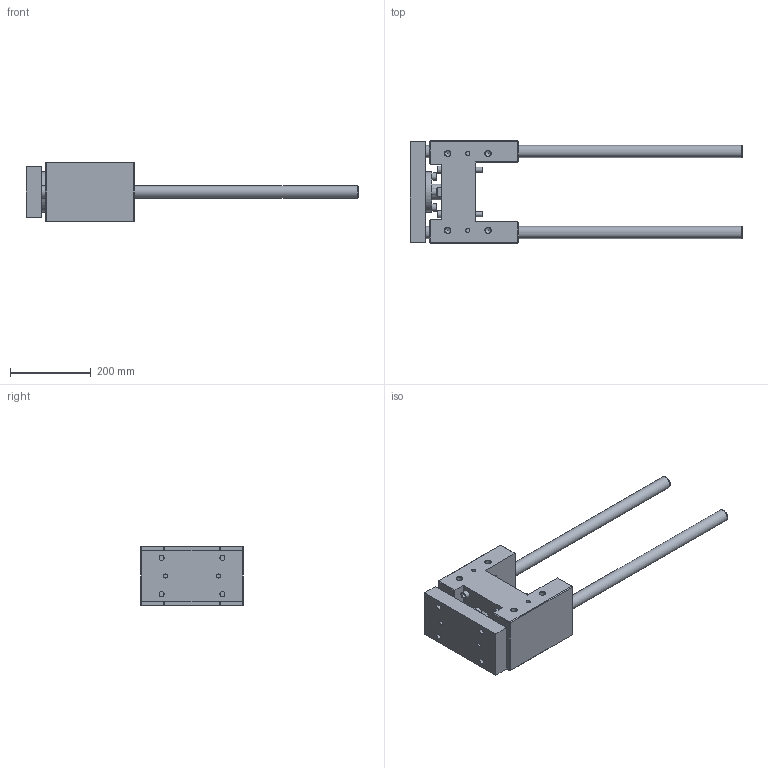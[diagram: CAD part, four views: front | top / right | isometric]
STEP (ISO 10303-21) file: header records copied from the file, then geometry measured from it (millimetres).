
FILE_DESCRIPTION( ( 'STEP AP214' ), '1' );
FILE_NAME( 'U:/Etudes/Top Solid/BIBLIO 3D AVM/TOP/PNEUMATIQUE/GUIDAGES/Type 32 (en H)/R_Renforcée/320R8_30.step', '2005-05-27T08:42:22', ( ' ' ), ( ' ' ), 'XStep 1.0', ' ', ' ' );
FILE_SCHEMA( ( 'automotive_design' ) );
Length unit declared in the file: metre
Products named in the file (2): 1; 2
Bounding box: 820 x 252 x 148 mm (x, y, z)
Volume: 7052703.7 mm3; surface area: 611380 mm2
Topology: 2 solids, 7 shells, 238 faces, 524 edges, 339 vertices
Faces by surface type: plane 149, cylinder 68, cone 21
Full cylindrical faces by diameter (mm): 10 x4, 10.106 x4, 12 x16, 13 x12, 13.835 x8, 18 x8, 20 x4, 24.835 x1, 30 x4, 39 x1, 42 x1, 57 x1, 60 x2, 65 x1, 100 x1
Entity records: 7905 total; most frequent: CARTESIAN_POINT 1198, DIRECTION 996, ORIENTED_EDGE 784, EDGE_CURVE 392, EDGE_LOOP 390, AXIS2_PLACEMENT_3D 372, FACE_OUTER_BOUND 306, VERTEX_POINT 302
